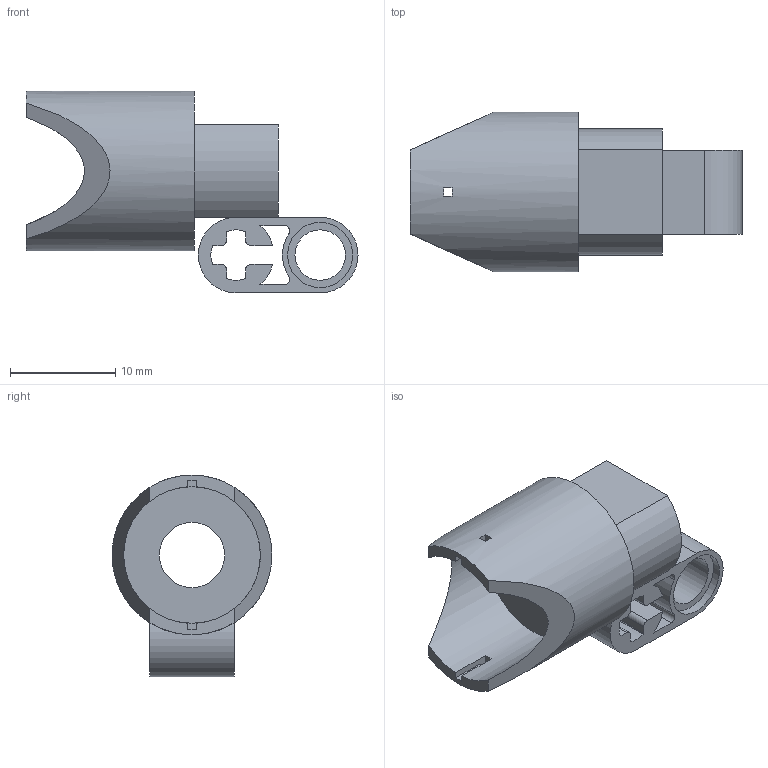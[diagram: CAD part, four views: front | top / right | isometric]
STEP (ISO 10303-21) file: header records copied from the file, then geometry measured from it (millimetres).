
FILE_DESCRIPTION(/* description */ ('Unknown'),/* implementation_level */ '2;1');
FILE_NAME(/* name */ 'Gray_4638507_a)_AVV',/* time_stamp */ '2025-07-22T00:01:06+02:00',/* author */ ('Unknown'),/* organization */ ('Unknown'),/* preprocessor_version */ 'ST-DEVELOPER v19.4',/* originating_system */ 'Solid Edge',/* authorisation */ 'Unknown');
FILE_SCHEMA (('AUTOMOTIVE_DESIGN {1 0 10303 214 3 1 1}'));
Length unit declared in the file: millimetre
Products named in the file (1): Gray_4638507_a)_AVV
Bounding box: 31.6 x 15.2 x 19.2 mm (x, y, z)
Volume: 2201.6 mm3; surface area: 2593.1 mm2
Topology: 1 solids, 1 shells, 63 faces, 181 edges, 120 vertices
Faces by surface type: plane 35, cylinder 28
Full cylindrical faces by diameter (mm): 4.8 x1, 6.2 x3, 13 x1, 15.2 x1
Entity records: 2068 total; most frequent: DIRECTION 368, CARTESIAN_POINT 350, ORIENTED_EDGE 340, EDGE_CURVE 170, AXIS2_PLACEMENT_3D 134, VERTEX_POINT 116, LINE 100, VECTOR 100
